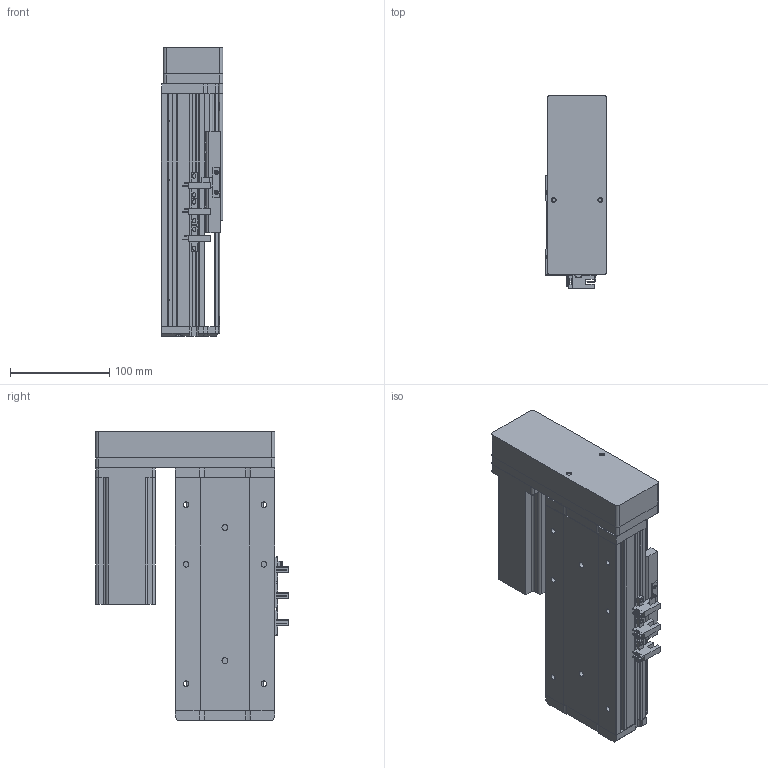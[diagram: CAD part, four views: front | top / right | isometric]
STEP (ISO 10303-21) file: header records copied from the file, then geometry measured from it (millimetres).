
FILE_DESCRIPTION (( 'STEP AP214' ), '1' );
FILE_NAME ('KSD100S-S50-ML-CM.STEP', '2019-08-30T05:47:08', ( '微软用户' ), ( '微软中国' ), 'SwSTEP 2.0', 'SolidWorks 2014', '' );
FILE_SCHEMA (( 'AUTOMOTIVE_DESIGN' ));
Length unit declared in the file: millimetre
Products named in the file (11): 100遵傷啣; 100宽底板半封闭丝杆50行程; KSD100S-S50-ML-CM; 悵誘欶酘衵殏; 台达ECMA－C20604AS伺服电机; 100宽马达安装板连板左右折丝杆; U倰嫖萇EEㄜSX672; 覜茼え100遵圉猾敕; 100宽防尘板丝杆50行程; 100遵鎮湛假蚾啣; 100宽滚珠螺姆安装板半封闭
Assembly tree (12 placements, depth 2):
  KSD100S-S50-ML-CM
    100宽底板半封闭丝杆50行程
    100遵傷啣
    100宽滚珠螺姆安装板半封闭
    100遵鎮湛假蚾啣
    100宽防尘板丝杆50行程
    覜茼え100遵圉猾敕
    U倰嫖萇EEㄜSX672  x3
    100宽马达安装板连板左右折丝杆
    台达ECMA－C20604AS伺服电机
    悵誘欶酘衵殏
Bounding box: 62 x 193.7 x 290.5 mm (x, y, z)
Volume: 1222369.9 mm3; surface area: 342918.1 mm2
Topology: 13 solids, 13 shells, 1073 faces, 3000 edges, 1931 vertices
Faces by surface type: cylinder 502, plane 488, cone 83
Entity records: 35593 total; most frequent: CARTESIAN_POINT 6185, DIRECTION 4959, ORIENTED_EDGE 4740, EDGE_CURVE 2370, AXIS2_PLACEMENT_3D 1781, VERTEX_POINT 1555, VECTOR 1397, LINE 1397
